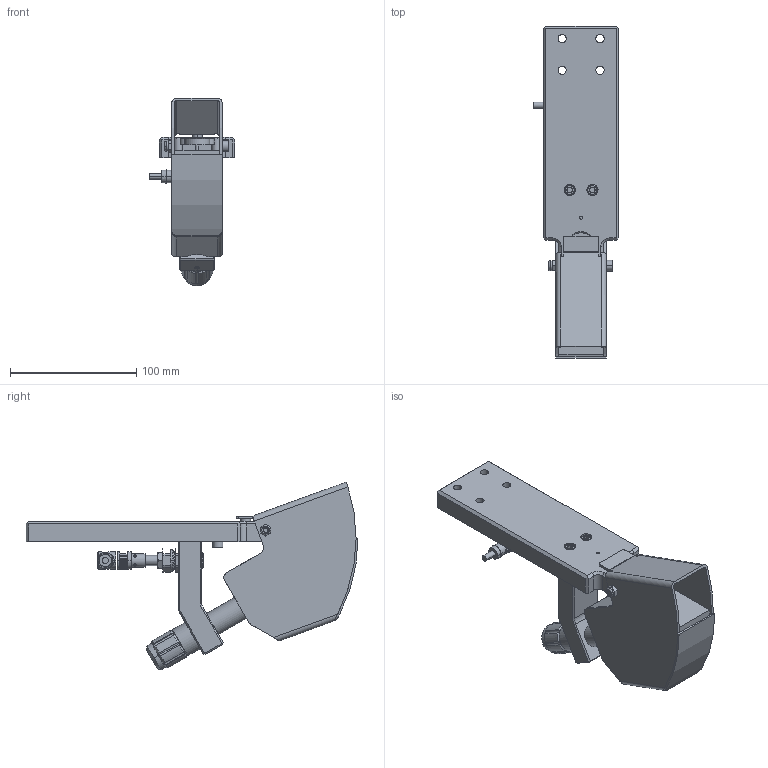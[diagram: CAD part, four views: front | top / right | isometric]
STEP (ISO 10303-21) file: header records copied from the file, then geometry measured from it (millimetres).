
FILE_DESCRIPTION (( 'STEP AP214' ), '1' );
FILE_NAME ('CP-V.STEP', '2026-02-05T14:51:21', ( '' ), ( '' ), 'SwSTEP 2.0', 'SolidWorks 2022', '' );
FILE_SCHEMA (( 'AUTOMOTIVE_DESIGN' ));
Length unit declared in the file: millimetre
Products named in the file (1): CP-V
Bounding box: 68 x 263.15 x 148.81 mm (x, y, z)
Surface area: 111844.2 mm2 (no closed solid volume)
Topology: 0 solids, 41 shells, 508 faces, 1498 edges, 1000 vertices
Faces by surface type: plane 215, cylinder 158, bspline 67, cone 60, torus 8
Entity records: 28487 total; most frequent: CARTESIAN_POINT 10207, DIRECTION 2501, ORIENTED_EDGE 2476, EDGE_CURVE 1494, VERTEX_POINT 1000, AXIS2_PLACEMENT_3D 895, VECTOR 711, LINE 711
